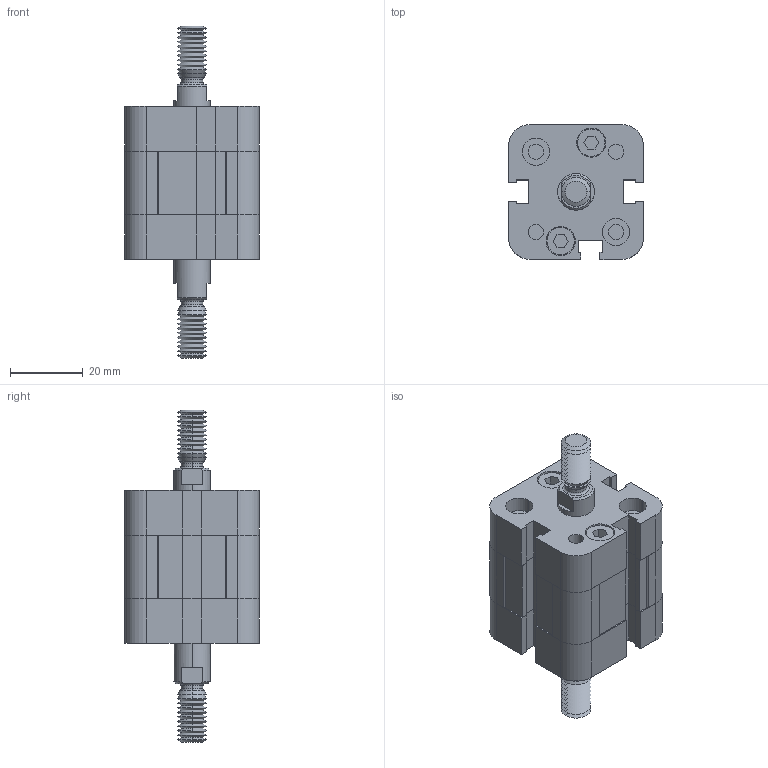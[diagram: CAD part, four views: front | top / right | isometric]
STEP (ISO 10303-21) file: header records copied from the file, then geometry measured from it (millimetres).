
FILE_DESCRIPTION (( 'STEP AP203' ), '1' );
FILE_NAME ('NSKI020.0005 M P.STEP', '2010-06-11T14:43:40', ( 'Vesta Automation srl' ), ( 'Vesta Automation srl' ), 'SwSTEP 2.0', 'SolidWorks 2009', '' );
FILE_SCHEMA (( 'CONFIG_CONTROL_DESIGN' ));
Length unit declared in the file: millimetre
Products named in the file (5): NSKI020.0005 M P; FRONT END CAP-NSKI 20; REAR END CAP-NSKI 20P; BARREL-NSKI20_STROKE 0005; PISTON ROD-NSKI 020 P M_STROKE 0005
Assembly tree (4 placements, depth 2):
  NSKI020.0005 M P
    BARREL-NSKI20_STROKE 0005
    PISTON ROD-NSKI 020 P M_STROKE 0005
    REAR END CAP-NSKI 20P
    FRONT END CAP-NSKI 20
Bounding box: 37 x 37 x 91 mm (x, y, z)
Volume: 49453.8 mm3; surface area: 23781 mm2
Topology: 5 solids, 5 shells, 624 faces, 1510 edges, 934 vertices
Faces by surface type: plane 296, cylinder 184, cone 136, torus 8
Entity records: 18553 total; most frequent: DIRECTION 3214, CARTESIAN_POINT 3099, ORIENTED_EDGE 3020, EDGE_CURVE 1510, AXIS2_PLACEMENT_3D 1081, VECTOR 1052, LINE 1052, VERTEX_POINT 934
